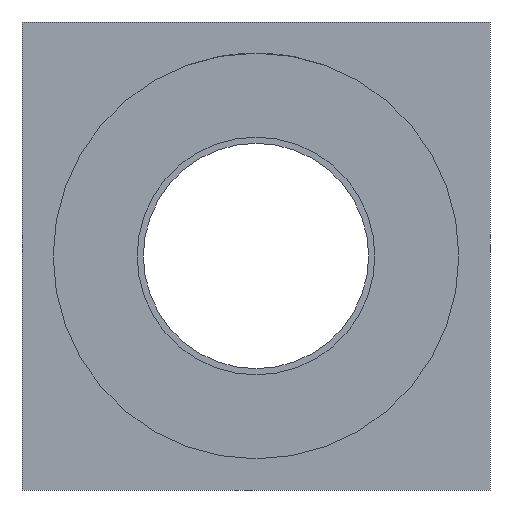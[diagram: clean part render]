
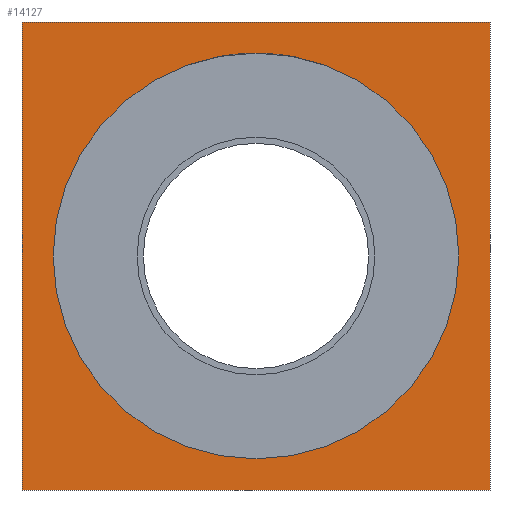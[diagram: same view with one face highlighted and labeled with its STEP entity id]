
A CAD part, front view. The second image highlights one B-rep face of the part: STEP entity #14127.
In plain terms, the highlighted planar face has unit normal (0, -1, 0).
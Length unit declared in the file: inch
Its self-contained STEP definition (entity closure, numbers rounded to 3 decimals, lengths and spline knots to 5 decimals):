
#13814=CARTESIAN_POINT('',(-5.11811,10.88583,0.));
#13815=VERTEX_POINT('',#13814);
#13816=CARTESIAN_POINT('',(0.0,10.88583,0.0));
#13817=DIRECTION('',(0.0,-1.0,0.0));
#13818=DIRECTION('',(1.0,0.0,0.0));
#13819=AXIS2_PLACEMENT_3D('',#13816,#13817,#13818);
#13820=CIRCLE('',#13819,5.11811);
#13821=EDGE_CURVE('',#13815,#13815,#13820,.T.);
#14085=CARTESIAN_POINT('',(0.0,10.88583,0.0));
#14086=DIRECTION('',(0.0,1.0,0.0));
#14087=DIRECTION('',(0.0,0.0,1.0));
#14088=AXIS2_PLACEMENT_3D('',#14085,#14086,#14087);
#14089=PLANE('',#14088);
#14090=CARTESIAN_POINT('',(5.90551,10.88583,5.90551));
#14091=VERTEX_POINT('',#14090);
#14092=CARTESIAN_POINT('',(5.90551,10.88583,-5.90551));
#14093=VERTEX_POINT('',#14092);
#14094=CARTESIAN_POINT('',(5.90551,10.88583,5.90551));
#14095=DIRECTION('',(0.0,0.0,-1.0));
#14096=VECTOR('',#14095,11.81102);
#14097=LINE('',#14094,#14096);
#14098=EDGE_CURVE('',#14091,#14093,#14097,.T.);
#14099=ORIENTED_EDGE('',*,*,#14098,.F.);
#14100=CARTESIAN_POINT('',(-5.90551,10.88583,5.90551));
#14101=VERTEX_POINT('',#14100);
#14102=CARTESIAN_POINT('',(-5.90551,10.88583,5.90551));
#14103=DIRECTION('',(1.0,0.0,0.0));
#14104=VECTOR('',#14103,11.81102);
#14105=LINE('',#14102,#14104);
#14106=EDGE_CURVE('',#14101,#14091,#14105,.T.);
#14107=ORIENTED_EDGE('',*,*,#14106,.F.);
#14108=CARTESIAN_POINT('',(-5.90551,10.88583,-5.90551));
#14109=VERTEX_POINT('',#14108);
#14110=CARTESIAN_POINT('',(-5.90551,10.88583,-5.90551));
#14111=DIRECTION('',(0.0,0.0,1.0));
#14112=VECTOR('',#14111,11.81102);
#14113=LINE('',#14110,#14112);
#14114=EDGE_CURVE('',#14109,#14101,#14113,.T.);
#14115=ORIENTED_EDGE('',*,*,#14114,.F.);
#14116=CARTESIAN_POINT('',(5.90551,10.88583,-5.90551));
#14117=DIRECTION('',(-1.0,0.0,0.0));
#14118=VECTOR('',#14117,11.81102);
#14119=LINE('',#14116,#14118);
#14120=EDGE_CURVE('',#14093,#14109,#14119,.T.);
#14121=ORIENTED_EDGE('',*,*,#14120,.F.);
#14122=EDGE_LOOP('',(#14099,#14107,#14115,#14121));
#14123=FACE_OUTER_BOUND('',#14122,.T.);
#14124=ORIENTED_EDGE('',*,*,#13821,.F.);
#14125=EDGE_LOOP('',(#14124));
#14126=FACE_BOUND('',#14125,.T.);
#14127=ADVANCED_FACE('',(#14123,#14126),#14089,.F.);
